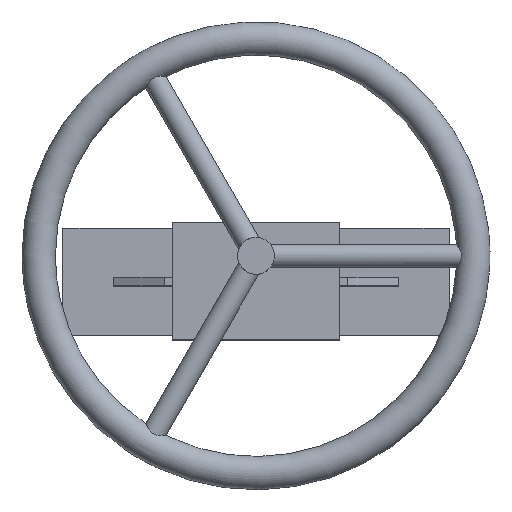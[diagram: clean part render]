
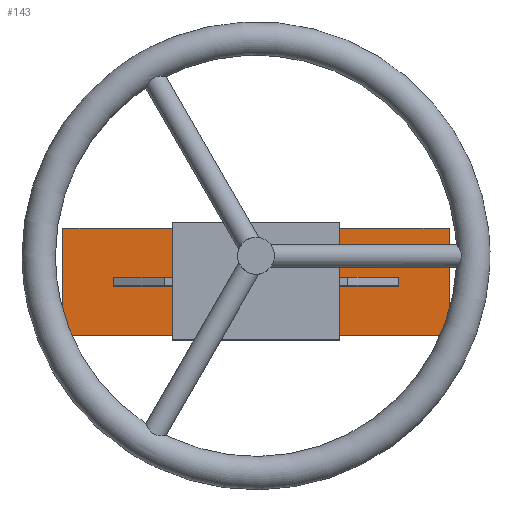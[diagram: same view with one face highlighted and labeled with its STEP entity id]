
A CAD part, top view. The second image highlights one B-rep face of the part: STEP entity #143.
In plain terms, the highlighted planar face has unit normal (0, 0, 1).
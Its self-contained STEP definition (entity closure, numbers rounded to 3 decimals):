
#143=ADVANCED_FACE('',(#968,#970,#972),#974,.T.);
#968=FACE_BOUND('',#969,.T.);
#969=EDGE_LOOP('',(#1689,#1690,#1691,#1692,#1693,#1694,#1695,#1696));
#970=FACE_BOUND('',#971,.T.);
#971=EDGE_LOOP('',(#1697,#1698,#1699,#1700));
#972=FACE_BOUND('',#973,.T.);
#973=EDGE_LOOP('',(#1701));
#974=PLANE('',#975);
#975=AXIS2_PLACEMENT_3D('',#976,#977,#978);
#976=CARTESIAN_POINT('',(0.,0.,180.));
#977=DIRECTION('',(0.,0.,1.));
#978=DIRECTION('',(1.,0.,0.));
#1689=ORIENTED_EDGE('',*,*,#2119,.F.);
#1690=ORIENTED_EDGE('',*,*,#2120,.T.);
#1691=ORIENTED_EDGE('',*,*,#2121,.T.);
#1692=ORIENTED_EDGE('',*,*,#2122,.T.);
#1693=ORIENTED_EDGE('',*,*,#2123,.F.);
#1694=ORIENTED_EDGE('',*,*,#2124,.T.);
#1695=ORIENTED_EDGE('',*,*,#2125,.T.);
#1696=ORIENTED_EDGE('',*,*,#2126,.T.);
#1697=ORIENTED_EDGE('',*,*,#2127,.F.);
#1698=ORIENTED_EDGE('',*,*,#2109,.F.);
#1699=ORIENTED_EDGE('',*,*,#2128,.F.);
#1700=ORIENTED_EDGE('',*,*,#2085,.F.);
#1701=ORIENTED_EDGE('',*,*,#2102,.F.);
#2085=EDGE_CURVE('',#2310,#2312,#2313,.T.);
#2102=EDGE_CURVE('',#2343,#2343,#2344,.F.);
#2109=EDGE_CURVE('',#2354,#2356,#2357,.F.);
#2119=EDGE_CURVE('',#2371,#2372,#2373,.T.);
#2120=EDGE_CURVE('',#2371,#2374,#2375,.T.);
#2121=EDGE_CURVE('',#2374,#2376,#2377,.T.);
#2122=EDGE_CURVE('',#2376,#2378,#2379,.T.);
#2123=EDGE_CURVE('',#2380,#2378,#2381,.T.);
#2124=EDGE_CURVE('',#2380,#2382,#2383,.T.);
#2125=EDGE_CURVE('',#2382,#2384,#2385,.T.);
#2126=EDGE_CURVE('',#2384,#2372,#2386,.T.);
#2127=EDGE_CURVE('',#2356,#2310,#2387,.T.);
#2128=EDGE_CURVE('',#2312,#2354,#2388,.T.);
#2310=VERTEX_POINT('',#2696);
#2312=VERTEX_POINT('',#2700);
#2313=LINE('',#2701,#2702);
#2343=VERTEX_POINT('',#2768);
#2344=CIRCLE('',#2769,11.);
#2354=VERTEX_POINT('',#2792);
#2356=VERTEX_POINT('',#2796);
#2357=LINE('',#2797,#2798);
#2371=VERTEX_POINT('',#2831);
#2372=VERTEX_POINT('',#2832);
#2373=LINE('',#2833,#2834);
#2374=VERTEX_POINT('',#2836);
#2375=LINE('',#2837,#2838);
#2376=VERTEX_POINT('',#2840);
#2377=LINE('',#2841,#2842);
#2378=VERTEX_POINT('',#2844);
#2379=LINE('',#2845,#2846);
#2380=VERTEX_POINT('',#2848);
#2381=LINE('',#2849,#2850);
#2382=VERTEX_POINT('',#2852);
#2383=LINE('',#2853,#2854);
#2384=VERTEX_POINT('',#2856);
#2385=LINE('',#2857,#2858);
#2386=LINE('',#2860,#2861);
#2387=LINE('',#2863,#2864);
#2388=LINE('',#2866,#2867);
#2696=CARTESIAN_POINT('',(-85.,-2.5,180.));
#2700=CARTESIAN_POINT('',(85.,-2.5,180.));
#2701=CARTESIAN_POINT('',(-85.,-2.5,180.));
#2702=VECTOR('',#2703,1.);
#2703=DIRECTION('',(1.,0.,0.));
#2768=CARTESIAN_POINT('',(0.,26.,180.));
#2769=AXIS2_PLACEMENT_3D('',#2770,#2771,#2772);
#2770=CARTESIAN_POINT('',(0.,15.,180.));
#2771=DIRECTION('',(-0.,-0.,-1.));
#2772=DIRECTION('',(0.,1.,0.));
#2792=CARTESIAN_POINT('',(85.,2.5,180.));
#2796=CARTESIAN_POINT('',(-85.,2.5,180.));
#2797=CARTESIAN_POINT('',(-85.,2.5,180.));
#2798=VECTOR('',#2799,1.);
#2799=DIRECTION('',(1.,0.,0.));
#2831=CARTESIAN_POINT('',(50.,-32.,180.));
#2832=CARTESIAN_POINT('',(-50.,-32.,180.));
#2833=CARTESIAN_POINT('',(50.,-32.,180.));
#2834=VECTOR('',#2835,1.);
#2835=DIRECTION('',(-1.,0.,0.));
#2836=CARTESIAN_POINT('',(115.5,-32.,180.));
#2837=CARTESIAN_POINT('',(50.,-32.,180.));
#2838=VECTOR('',#2839,1.);
#2839=DIRECTION('',(1.,0.,0.));
#2840=CARTESIAN_POINT('',(115.5,32.,180.));
#2841=CARTESIAN_POINT('',(115.5,-32.,180.));
#2842=VECTOR('',#2843,1.);
#2843=DIRECTION('',(0.,1.,0.));
#2844=CARTESIAN_POINT('',(50.,32.,180.));
#2845=CARTESIAN_POINT('',(115.5,32.,180.));
#2846=VECTOR('',#2847,1.);
#2847=DIRECTION('',(-1.,0.,0.));
#2848=CARTESIAN_POINT('',(-50.,32.,180.));
#2849=CARTESIAN_POINT('',(-50.,32.,180.));
#2850=VECTOR('',#2851,1.);
#2851=DIRECTION('',(1.,0.,0.));
#2852=CARTESIAN_POINT('',(-115.5,32.,180.));
#2853=CARTESIAN_POINT('',(-50.,32.,180.));
#2854=VECTOR('',#2855,1.);
#2855=DIRECTION('',(-1.,0.,0.));
#2856=CARTESIAN_POINT('',(-115.5,-32.,180.));
#2857=CARTESIAN_POINT('',(-115.5,32.,180.));
#2858=VECTOR('',#2859,1.);
#2859=DIRECTION('',(0.,-1.,0.));
#2860=CARTESIAN_POINT('',(-115.5,-32.,180.));
#2861=VECTOR('',#2862,1.);
#2862=DIRECTION('',(1.,0.,0.));
#2863=CARTESIAN_POINT('',(-85.,2.5,180.));
#2864=VECTOR('',#2865,1.);
#2865=DIRECTION('',(0.,-1.,0.));
#2866=CARTESIAN_POINT('',(85.,-2.5,180.));
#2867=VECTOR('',#2868,1.);
#2868=DIRECTION('',(0.,1.,0.));
